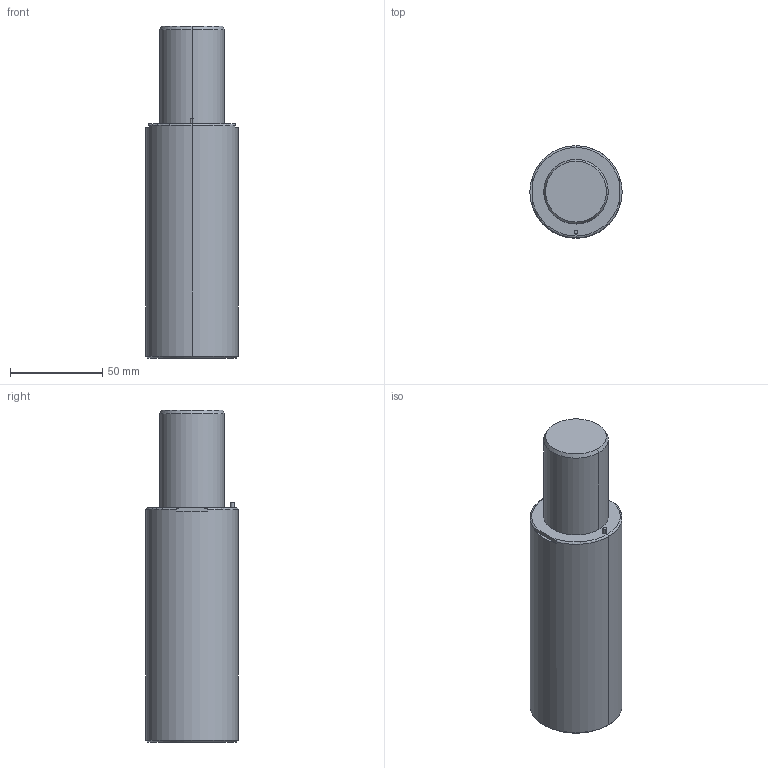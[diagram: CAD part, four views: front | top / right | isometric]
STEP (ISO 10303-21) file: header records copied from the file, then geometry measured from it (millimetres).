
FILE_DESCRIPTION(/* description */ (''),/* implementation_level */ '2;1');
FILE_NAME(/* name */ '3d_gsx50-50_03961_r00.stp',/* time_stamp */ '2011-01-10T14:15:12+09:00',/* author */ ('MISUMI'),/* organization */ (''),/* preprocessor_version */ 'ST-DEVELOPER v11',/* originating_system */ 'UGS - NX 5.0',/* authorisation */ '');
FILE_SCHEMA (('CONFIG_CONTROL_DESIGN'));
Length unit declared in the file: millimetre
Products named in the file (1): 3d_gsx50-50_03961_r00
Bounding box: 50 x 50 x 180 mm (x, y, z)
Volume: 296795.8 mm3; surface area: 31171.9 mm2
Topology: 1 solids, 1 shells, 59 faces, 130 edges, 78 vertices
Faces by surface type: cylinder 28, plane 15, cone 12, torus 4
Entity records: 1724 total; most frequent: CARTESIAN_POINT 320, DIRECTION 308, ORIENTED_EDGE 244, AXIS2_PLACEMENT_3D 130, EDGE_CURVE 122, VERTEX_POINT 78, EDGE_LOOP 72, CIRCLE 70
